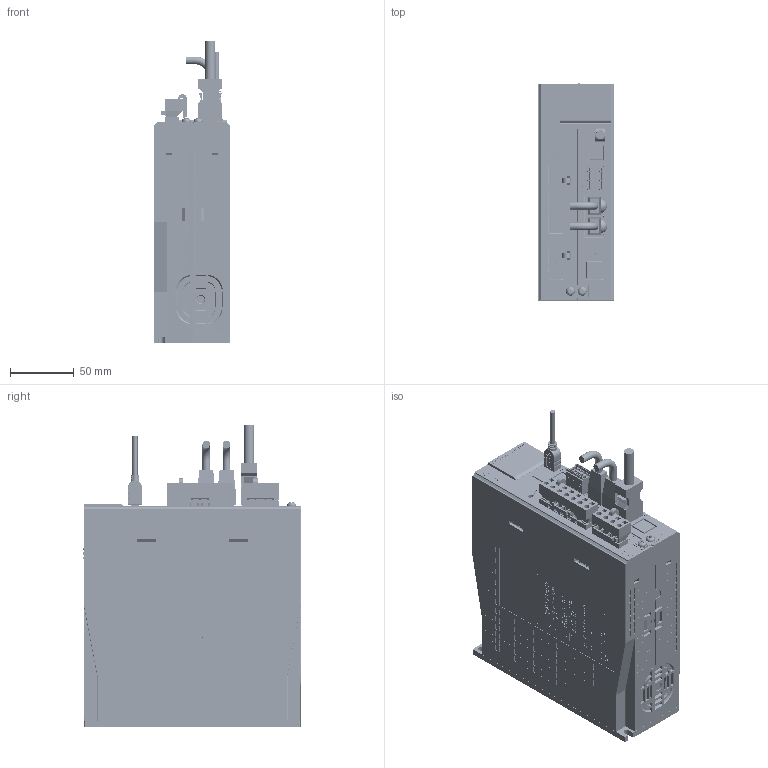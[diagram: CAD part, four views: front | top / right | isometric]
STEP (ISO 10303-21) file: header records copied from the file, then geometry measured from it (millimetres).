
FILE_DESCRIPTION(('CATIA V5 STEP Exchange'),'2;1');
FILE_NAME('C:\Users\xinje\Desktop\DS5C2-41P0-PTA-官网图+EPLAN图-240512.stp','2024-05-14T06:57:46+00:00',('none'),('none'),'CATIA Version 5 Release 20 GA (IN-10)','CATIA V5 STEP AP203','none');
FILE_SCHEMA(('CONFIG_CONTROL_DESIGN'));
Products named in the file (2): DS5C2-41P0-PTA-官网图+EPLAN图-240511_stp; QIJIAN227227227227
Assembly tree (14 placements, depth 3):
  DS5C2-41P0-PTA-官网图+EPLAN图-240511_stp
    #58
    #11733
    #14021
    QIJIAN227227227227
      #107072
      #114787
      #123982
      #125711
      #130646
      #219197
      #226832
    #288349
    #753364
    #783884
Bounding box: 60 x 169.9 x 236.45 mm (x, y, z)
Surface area: 401404.1 mm2
Topology: 918 solids, 928 shells, 22451 faces, 63758 edges, 43506 vertices
Faces by surface type: plane 16255, cylinder 3089, bspline 2539, sphere 282, cone 157, torus 129
Entity records: 798601 total; most frequent: CARTESIAN_POINT 253243, ORIENTED_EDGE 127112, DIRECTION 86402, EDGE_CURVE 63556, VERTEX_POINT 43506, VECTOR 43183, LINE 43183, EDGE_LOOP 23942
